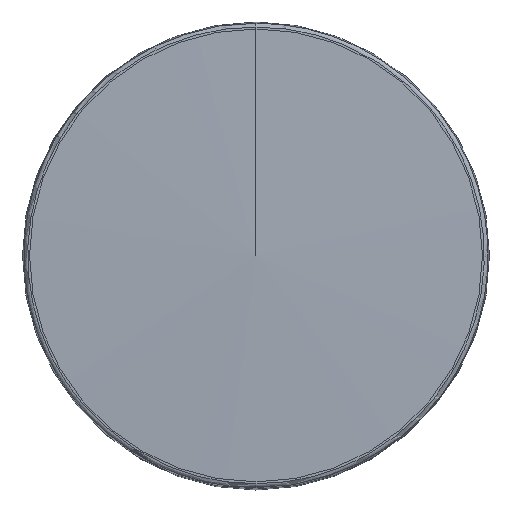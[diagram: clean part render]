
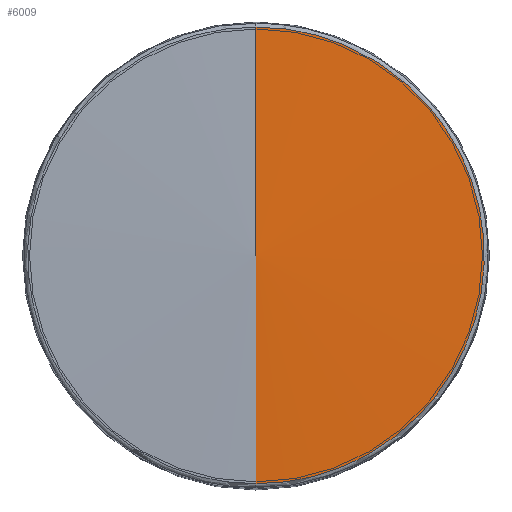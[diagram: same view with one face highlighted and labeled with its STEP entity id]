
A CAD part, top view. The second image highlights one B-rep face of the part: STEP entity #6009.
In plain terms, the highlighted spherical face has radius 1077.38 mm.
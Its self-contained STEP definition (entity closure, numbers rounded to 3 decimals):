
#20=SPHERICAL_SURFACE('',#6588,1077.38);
#84=B_SPLINE_CURVE_WITH_KNOTS('',3,(#10191,#10192,#10193,#10194,#10195),
 .UNSPECIFIED.,.F.,.F.,(4,1,4),(0.,0.5,1.),.UNSPECIFIED.);
#88=B_SPLINE_CURVE_WITH_KNOTS('',3,(#10237,#10238,#10239,#10240),
 .UNSPECIFIED.,.F.,.F.,(4,4),(0.,0.125),.UNSPECIFIED.);
#89=B_SPLINE_CURVE_WITH_KNOTS('',3,(#10241,#10242,#10243,#10244,#10245,
#10246,#10247,#10248,#10249,#10250,#10251,#10252,#10253,#10254,#10255,#10256),
 .UNSPECIFIED.,.F.,.F.,(4,3,3,3,3,4),(0.,0.25,
0.49,0.729,0.969,1.),
 .UNSPECIFIED.);
#90=B_SPLINE_CURVE_WITH_KNOTS('',3,(#10258,#10259,#10260,#10261,#10262,
#10263,#10264,#10265,#10266,#10267,#10268,#10269,#10270,#10271,#10272,#10273),
 .UNSPECIFIED.,.F.,.F.,(4,3,3,3,3,4),(0.,0.25,
0.49,0.729,0.969,1.),.UNSPECIFIED.);
#91=B_SPLINE_CURVE_WITH_KNOTS('',3,(#10275,#10276,#10277,#10278),
 .UNSPECIFIED.,.F.,.F.,(4,4),(0.875,1.),.UNSPECIFIED.);
#92=B_SPLINE_CURVE_WITH_KNOTS('',3,(#10279,#10280,#10281,#10282,#10283,
#10284,#10285,#10286,#10287),.UNSPECIFIED.,.F.,.F.,(4,1,1,1,1,1,4),(0.125,
0.25,0.375,0.5,0.625,0.75,0.875),.UNSPECIFIED.);
#525=FACE_OUTER_BOUND('',#869,.T.);
#869=EDGE_LOOP('',(#5061,#5062,#5063,#5064,#5065,#5066));
#2725=VERTEX_POINT('',#10189);
#2726=VERTEX_POINT('',#10190);
#2727=VERTEX_POINT('',#10235);
#2728=VERTEX_POINT('',#10236);
#2729=VERTEX_POINT('',#10257);
#2730=VERTEX_POINT('',#10274);
#3523=EDGE_CURVE('',#2725,#2726,#84,.T.);
#3527=EDGE_CURVE('',#2727,#2728,#88,.T.);
#3528=EDGE_CURVE('',#2725,#2727,#89,.T.);
#3529=EDGE_CURVE('',#2729,#2726,#90,.T.);
#3530=EDGE_CURVE('',#2730,#2729,#91,.T.);
#3531=EDGE_CURVE('',#2728,#2730,#92,.T.);
#5061=ORIENTED_EDGE('',*,*,#3527,.F.);
#5062=ORIENTED_EDGE('',*,*,#3528,.F.);
#5063=ORIENTED_EDGE('',*,*,#3523,.T.);
#5064=ORIENTED_EDGE('',*,*,#3529,.F.);
#5065=ORIENTED_EDGE('',*,*,#3530,.F.);
#5066=ORIENTED_EDGE('',*,*,#3531,.F.);
#6009=ADVANCED_FACE('',(#525),#20,.T.);
#6588=AXIS2_PLACEMENT_3D('',#10234,#8089,#8090);
#8089=DIRECTION('center_axis',(0.,0.,1.));
#8090=DIRECTION('ref_axis',(0.,-1.,0.));
#10189=CARTESIAN_POINT('',(0.,0.02,797.505));
#10190=CARTESIAN_POINT('',(0.,-0.02,797.505));
#10191=CARTESIAN_POINT('Ctrl Pts',(0.,0.02,
798.505));
#10192=CARTESIAN_POINT('Ctrl Pts',(0.013,0.013,
798.505));
#10193=CARTESIAN_POINT('Ctrl Pts',(0.027,0.,
798.505));
#10194=CARTESIAN_POINT('Ctrl Pts',(0.013,-0.013,
798.505));
#10195=CARTESIAN_POINT('Ctrl Pts',(0.,-0.02,
798.505));
#10234=CARTESIAN_POINT('Origin',(0.,0.,
-278.874));
#10235=CARTESIAN_POINT('',(0.,79.196,795.591));
#10236=CARTESIAN_POINT('',(30.307,73.167,795.591));
#10237=CARTESIAN_POINT('Ctrl Pts',(0.,79.196,
795.591));
#10238=CARTESIAN_POINT('Ctrl Pts',(10.408,79.3,795.591));
#10239=CARTESIAN_POINT('Ctrl Pts',(20.742,77.162,795.591));
#10240=CARTESIAN_POINT('Ctrl Pts',(30.307,73.167,795.591));
#10241=CARTESIAN_POINT('Ctrl Pts',(0.,0.02,
798.505));
#10242=CARTESIAN_POINT('Ctrl Pts',(0.,6.627,
798.505));
#10243=CARTESIAN_POINT('Ctrl Pts',(0.,13.232,
798.444));
#10244=CARTESIAN_POINT('Ctrl Pts',(0.,19.834,
798.323));
#10245=CARTESIAN_POINT('Ctrl Pts',(0.,26.166,
798.206));
#10246=CARTESIAN_POINT('Ctrl Pts',(0.,32.497,
798.034));
#10247=CARTESIAN_POINT('Ctrl Pts',(0.,38.825,
797.806));
#10248=CARTESIAN_POINT('Ctrl Pts',(0.,45.142,
797.578));
#10249=CARTESIAN_POINT('Ctrl Pts',(0.,51.457,
797.295));
#10250=CARTESIAN_POINT('Ctrl Pts',(0.,57.77,
796.956));
#10251=CARTESIAN_POINT('Ctrl Pts',(0.,64.093,
796.616));
#10252=CARTESIAN_POINT('Ctrl Pts',(0.,70.413,
796.221));
#10253=CARTESIAN_POINT('Ctrl Pts',(0.,76.732,
795.77));
#10254=CARTESIAN_POINT('Ctrl Pts',(0.,77.553,
795.711));
#10255=CARTESIAN_POINT('Ctrl Pts',(0.,78.375,
795.651));
#10256=CARTESIAN_POINT('Ctrl Pts',(0.,79.196,
795.591));
#10257=CARTESIAN_POINT('',(0.,-79.196,795.591));
#10258=CARTESIAN_POINT('Ctrl Pts',(0.,-79.196,
795.591));
#10259=CARTESIAN_POINT('Ctrl Pts',(0.,-72.607,
796.076));
#10260=CARTESIAN_POINT('Ctrl Pts',(0.,-66.015,
796.501));
#10261=CARTESIAN_POINT('Ctrl Pts',(0.,-59.422,
796.866));
#10262=CARTESIAN_POINT('Ctrl Pts',(0.,-53.098,
797.215));
#10263=CARTESIAN_POINT('Ctrl Pts',(0.,-46.772,
797.508));
#10264=CARTESIAN_POINT('Ctrl Pts',(0.,-40.444,
797.746));
#10265=CARTESIAN_POINT('Ctrl Pts',(0.,-34.128,
797.983));
#10266=CARTESIAN_POINT('Ctrl Pts',(0.,-27.809,
798.165));
#10267=CARTESIAN_POINT('Ctrl Pts',(0.,-21.488,
798.291));
#10268=CARTESIAN_POINT('Ctrl Pts',(0.,-15.158,
798.417));
#10269=CARTESIAN_POINT('Ctrl Pts',(0.,-8.825,
798.488));
#10270=CARTESIAN_POINT('Ctrl Pts',(0.,-2.49,
798.503));
#10271=CARTESIAN_POINT('Ctrl Pts',(0.,-1.667,
798.505));
#10272=CARTESIAN_POINT('Ctrl Pts',(0.,-0.843,
798.505));
#10273=CARTESIAN_POINT('Ctrl Pts',(0.,-0.02,
798.505));
#10274=CARTESIAN_POINT('',(30.307,-73.167,795.591));
#10275=CARTESIAN_POINT('Ctrl Pts',(30.307,-73.167,795.591));
#10276=CARTESIAN_POINT('Ctrl Pts',(20.742,-77.162,795.591));
#10277=CARTESIAN_POINT('Ctrl Pts',(10.408,-79.3,795.591));
#10278=CARTESIAN_POINT('Ctrl Pts',(0.,-79.196,
795.591));
#10279=CARTESIAN_POINT('Ctrl Pts',(30.307,73.167,795.591));
#10280=CARTESIAN_POINT('Ctrl Pts',(39.872,69.173,795.591));
#10281=CARTESIAN_POINT('Ctrl Pts',(57.463,57.471,795.591));
#10282=CARTESIAN_POINT('Ctrl Pts',(75.071,31.093,795.591));
#10283=CARTESIAN_POINT('Ctrl Pts',(81.258,0.,
795.591));
#10284=CARTESIAN_POINT('Ctrl Pts',(75.071,-31.093,795.591));
#10285=CARTESIAN_POINT('Ctrl Pts',(57.463,-57.471,795.591));
#10286=CARTESIAN_POINT('Ctrl Pts',(39.872,-69.173,795.591));
#10287=CARTESIAN_POINT('Ctrl Pts',(30.307,-73.167,795.591));
